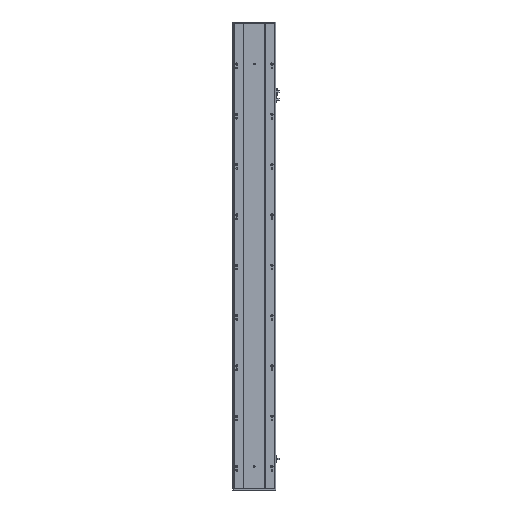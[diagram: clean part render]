
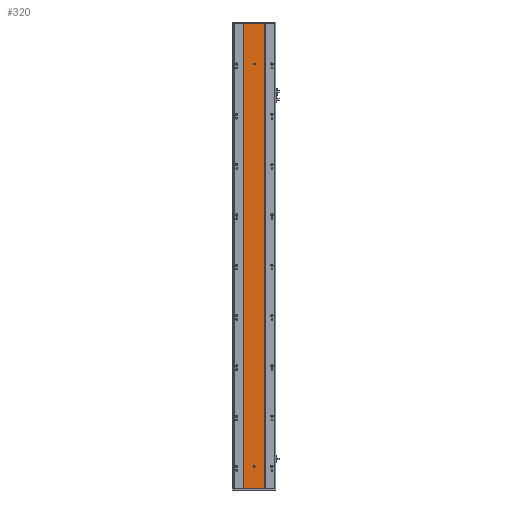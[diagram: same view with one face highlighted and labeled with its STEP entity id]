
A CAD part, front view. The second image highlights one B-rep face of the part: STEP entity #320.
In plain terms, the highlighted planar face has unit normal (0, -1, 0).
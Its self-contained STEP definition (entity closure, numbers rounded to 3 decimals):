
#320 = ADVANCED_FACE ( 'NONE', ( #15178, #25600, #9574 ), #6845, .F. ) ;
#519 = DIRECTION ( 'NONE',  ( 0., 0., 1. ) ) ;
#775 = ORIENTED_EDGE ( 'NONE', *, *, #26552, .T. ) ;
#1193 = CARTESIAN_POINT ( 'NONE',  ( 42.916, 2.57, 0. ) ) ;
#1406 = DIRECTION ( 'NONE',  ( 0., 0., 1. ) ) ;
#2295 = LINE ( 'NONE', #25058, #13537 ) ;
#3646 = AXIS2_PLACEMENT_3D ( 'NONE', #26530, #14059, #1406 ) ;
#4134 = VECTOR ( 'NONE', #16501, 1000. ) ;
#4167 = CIRCLE ( 'NONE', #26250, 3. ) ;
#4181 = DIRECTION ( 'NONE',  ( 0., 1., 0. ) ) ;
#4592 = EDGE_CURVE ( 'NONE', #13913, #13074, #21163, .T. ) ;
#4758 = CARTESIAN_POINT ( 'NONE',  ( 85., 2.57, 91.5 ) ) ;
#5258 = CARTESIAN_POINT ( 'NONE',  ( 42.916, 2.57, 0. ) ) ;
#5548 = ORIENTED_EDGE ( 'NONE', *, *, #9916, .F. ) ;
#5731 = ORIENTED_EDGE ( 'NONE', *, *, #4592, .T. ) ;
#6078 = ORIENTED_EDGE ( 'NONE', *, *, #26275, .F. ) ;
#6107 = CARTESIAN_POINT ( 'NONE',  ( 42.916, 2.57, 1851. ) ) ;
#6380 = CARTESIAN_POINT ( 'NONE',  ( 85., 2.57, 1691.5 ) ) ;
#6474 = CARTESIAN_POINT ( 'NONE',  ( 126.916, 2.57, 1851. ) ) ;
#6845 = PLANE ( 'NONE',  #26751 ) ;
#7075 = AXIS2_PLACEMENT_3D ( 'NONE', #10279, #24905, #12391 ) ;
#8023 = VERTEX_POINT ( 'NONE', #20084 ) ;
#9574 = FACE_OUTER_BOUND ( 'NONE', #19638, .T. ) ;
#9666 = DIRECTION ( 'NONE',  ( 0., 0., 1. ) ) ;
#9916 = EDGE_CURVE ( 'NONE', #20901, #25677, #27096, .T. ) ;
#10236 = CARTESIAN_POINT ( 'NONE',  ( 42.916, 2.57, 0. ) ) ;
#10279 = CARTESIAN_POINT ( 'NONE',  ( 85., 2.57, 88.5 ) ) ;
#10506 = ORIENTED_EDGE ( 'NONE', *, *, #16015, .T. ) ;
#11562 = VECTOR ( 'NONE', #18708, 1000. ) ;
#11592 = CIRCLE ( 'NONE', #7075, 3. ) ;
#12391 = DIRECTION ( 'NONE',  ( 0., 0., 1. ) ) ;
#13074 = VERTEX_POINT ( 'NONE', #6380 ) ;
#13115 = VERTEX_POINT ( 'NONE', #6474 ) ;
#13139 = DIRECTION ( 'NONE',  ( 0., 1., 0. ) ) ;
#13190 = DIRECTION ( 'NONE',  ( 0., 0., 1. ) ) ;
#13208 = CARTESIAN_POINT ( 'NONE',  ( 85., 2.57, 1685.5 ) ) ;
#13248 = DIRECTION ( 'NONE',  ( 0., 1., 0. ) ) ;
#13253 = CARTESIAN_POINT ( 'NONE',  ( 85., 2.57, 1688.5 ) ) ;
#13537 = VECTOR ( 'NONE', #14683, 1000. ) ;
#13731 = CARTESIAN_POINT ( 'NONE',  ( 126.916, 2.57, 0. ) ) ;
#13913 = VERTEX_POINT ( 'NONE', #13208 ) ;
#13993 = ORIENTED_EDGE ( 'NONE', *, *, #15477, .T. ) ;
#14059 = DIRECTION ( 'NONE',  ( 0., 1., 0. ) ) ;
#14219 = CARTESIAN_POINT ( 'NONE',  ( 42.916, 2.57, 1851. ) ) ;
#14236 = ORIENTED_EDGE ( 'NONE', *, *, #19919, .T. ) ;
#14683 = DIRECTION ( 'NONE',  ( 0., 0., 1. ) ) ;
#15178 = FACE_BOUND ( 'NONE', #20795, .T. ) ;
#15477 = EDGE_CURVE ( 'NONE', #8023, #22486, #11592, .T. ) ;
#16015 = EDGE_CURVE ( 'NONE', #13115, #20473, #26269, .T. ) ;
#16501 = DIRECTION ( 'NONE',  ( -1., 0., 0. ) ) ;
#16811 = AXIS2_PLACEMENT_3D ( 'NONE', #13253, #13248, #13190 ) ;
#18475 = DIRECTION ( 'NONE',  ( 0., 0., 1. ) ) ;
#18616 = CIRCLE ( 'NONE', #3646, 3. ) ;
#18708 = DIRECTION ( 'NONE',  ( -1., 0., 0. ) ) ;
#19638 = EDGE_LOOP ( 'NONE', ( #10506, #6078, #5548, #20499 ) ) ;
#19919 = EDGE_CURVE ( 'NONE', #22486, #8023, #18616, .T. ) ;
#20075 = EDGE_LOOP ( 'NONE', ( #5731, #775 ) ) ;
#20084 = CARTESIAN_POINT ( 'NONE',  ( 85., 2.57, 85.5 ) ) ;
#20473 = VERTEX_POINT ( 'NONE', #14219 ) ;
#20499 = ORIENTED_EDGE ( 'NONE', *, *, #23392, .T. ) ;
#20795 = EDGE_LOOP ( 'NONE', ( #13993, #14236 ) ) ;
#20901 = VERTEX_POINT ( 'NONE', #13731 ) ;
#21163 = CIRCLE ( 'NONE', #16811, 3. ) ;
#21926 = LINE ( 'NONE', #1193, #23220 ) ;
#22486 = VERTEX_POINT ( 'NONE', #4758 ) ;
#23174 = CARTESIAN_POINT ( 'NONE',  ( 42.916, 2.57, 0. ) ) ;
#23220 = VECTOR ( 'NONE', #9666, 1000. ) ;
#23392 = EDGE_CURVE ( 'NONE', #20901, #13115, #2295, .T. ) ;
#24905 = DIRECTION ( 'NONE',  ( 0., 1., 0. ) ) ;
#25058 = CARTESIAN_POINT ( 'NONE',  ( 126.916, 2.57, 0. ) ) ;
#25600 = FACE_BOUND ( 'NONE', #20075, .T. ) ;
#25649 = CARTESIAN_POINT ( 'NONE',  ( 85., 2.57, 1688.5 ) ) ;
#25677 = VERTEX_POINT ( 'NONE', #5258 ) ;
#26250 = AXIS2_PLACEMENT_3D ( 'NONE', #25649, #13139, #519 ) ;
#26269 = LINE ( 'NONE', #6107, #11562 ) ;
#26275 = EDGE_CURVE ( 'NONE', #25677, #20473, #21926, .T. ) ;
#26530 = CARTESIAN_POINT ( 'NONE',  ( 85., 2.57, 88.5 ) ) ;
#26552 = EDGE_CURVE ( 'NONE', #13074, #13913, #4167, .T. ) ;
#26751 = AXIS2_PLACEMENT_3D ( 'NONE', #23174, #4181, #18475 ) ;
#27096 = LINE ( 'NONE', #10236, #4134 ) ;
